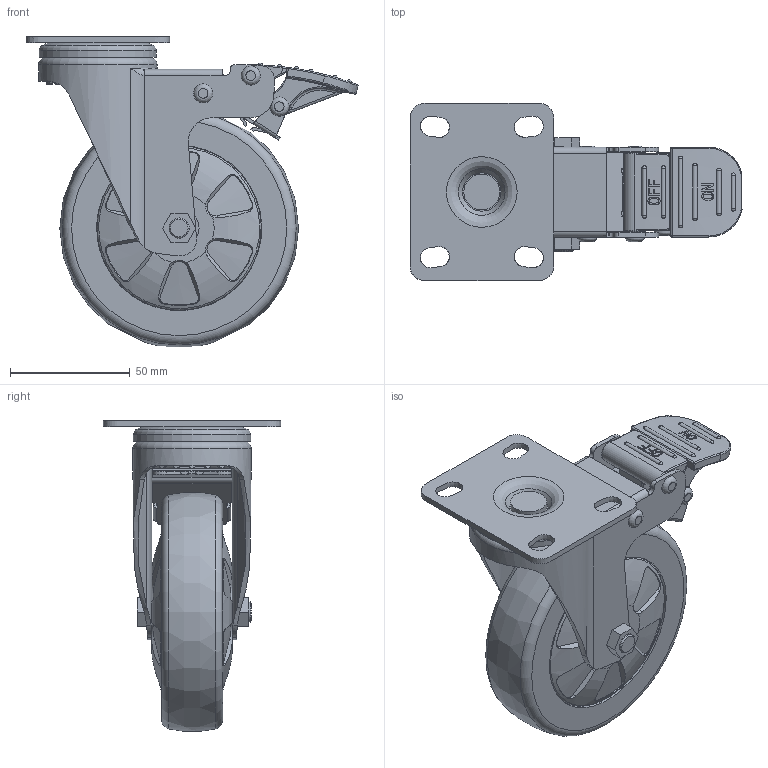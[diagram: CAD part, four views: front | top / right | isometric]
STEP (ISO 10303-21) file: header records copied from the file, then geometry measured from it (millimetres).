
FILE_DESCRIPTION(/* description */ (''),/* implementation_level */ '2;1');
FILE_NAME(/* name */ '20C26_4_F.stp',/* time_stamp */ '2022-10-06T15:23:46+08:00',/* author */ (''),/* organization */ (''),/* preprocessor_version */ 'ST-DEVELOPER v14',/* originating_system */ 'SIEMENS PLM Software NX 8.0',/* authorisation */ '');
FILE_SCHEMA (('AUTOMOTIVE_DESIGN { 1 0 10303 214 3 1 1 1 }'));
Products named in the file (1): 20C26_4_F
Bounding box: 138.71 x 74 x 129.87 mm (x, y, z)
Volume: 225942.6 mm3; surface area: 101989.9 mm2
Topology: 1 solids, 4 shells, 1155 faces, 3222 edges, 2075 vertices
Faces by surface type: plane 495, cylinder 248, bspline 187, torus 102, cone 57, sphere 55, extrusion 11
Full cylindrical faces by diameter (mm): 4.2 x3, 5.2 x5, 7.2 x2, 8.466 x1, 8.5 x1, 10 x1, 12.2 x1, 15 x2, 16.667 x3, 23.333 x2, 24.05 x1, 25 x1, 25.5 x2, 28.56 x1, 45 x1, 45.5 x1, 49 x1, 49.5 x1
Entity records: 48393 total; most frequent: CARTESIAN_POINT 22511, ORIENTED_EDGE 5846, DIRECTION 4515, EDGE_CURVE 2923, VERTEX_POINT 1937, AXIS2_PLACEMENT_3D 1698, EDGE_LOOP 1366, ADVANCED_FACE 1152
